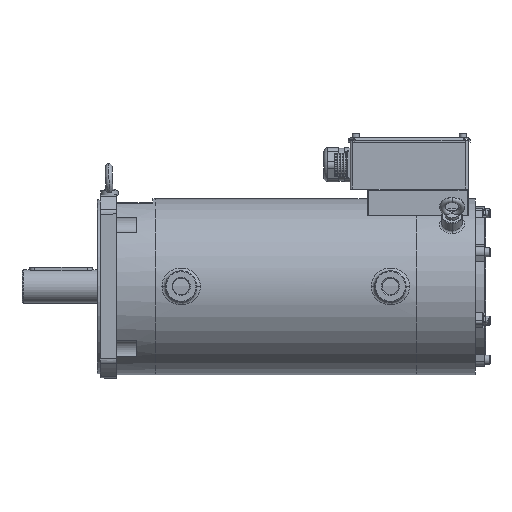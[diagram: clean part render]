
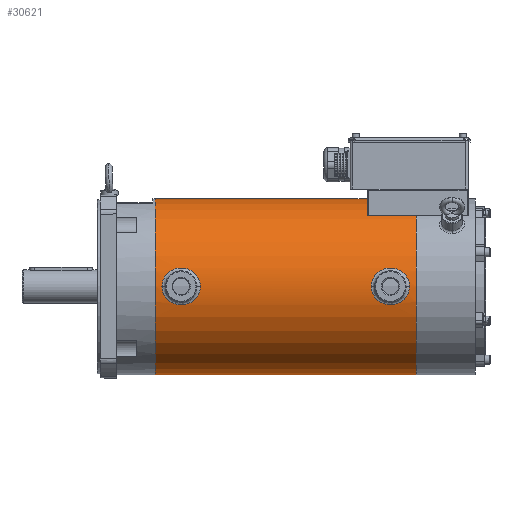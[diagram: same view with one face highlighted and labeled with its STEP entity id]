
A CAD part, top view. The second image highlights one B-rep face of the part: STEP entity #30621.
In plain terms, the highlighted cylindrical face has radius 126.5 mm (diameter 253 mm), a partial arc.
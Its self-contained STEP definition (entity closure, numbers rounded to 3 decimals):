
#24242=DIRECTION('',(-1.,0.,0.));
#24243=VECTOR('',#24242,374.5);
#24244=CARTESIAN_POINT('',(566.,126.5,
0.011));
#24245=LINE('',#24244,#24243);
#24327=CARTESIAN_POINT('',(566.,0.,0.));
#24328=DIRECTION('',(1.,0.,0.));
#24329=DIRECTION('',(0.,1.,0.));
#24330=AXIS2_PLACEMENT_3D('',#24327,#24328,#24329);
#24332=DIRECTION('',(-1.,0.,0.));
#24333=VECTOR('',#24332,374.5);
#24334=CARTESIAN_POINT('',(566.,-126.5,
-0.011));
#24335=LINE('',#24334,#24333);
#24336=CARTESIAN_POINT('',(191.5,0.,0.));
#24337=DIRECTION('',(-1.,0.,0.));
#24338=DIRECTION('',(0.,-1.,0.));
#24339=AXIS2_PLACEMENT_3D('',#24336,#24337,#24338);
#24341=CARTESIAN_POINT('',(501.5,-0.011,
126.5));
#24342=CARTESIAN_POINT('',(501.5,-1.837,126.5));
#24343=CARTESIAN_POINT('',(501.885,-5.422,
126.421));
#24344=CARTESIAN_POINT('',(503.612,-10.668,
126.084));
#24345=CARTESIAN_POINT('',(506.472,-15.524,
125.572));
#24346=CARTESIAN_POINT('',(510.368,-19.739,
124.97));
#24347=CARTESIAN_POINT('',(515.119,-23.08,
124.388));
#24348=CARTESIAN_POINT('',(520.49,-25.376,
123.933));
#24349=CARTESIAN_POINT('',(526.234,-26.531,
123.687));
#24350=CARTESIAN_POINT('',(532.106,-26.497,
123.694));
#24351=CARTESIAN_POINT('',(537.852,-25.269,
123.955));
#24352=CARTESIAN_POINT('',(543.193,-22.904,
124.421));
#24353=CARTESIAN_POINT('',(547.874,-19.516,
125.005));
#24354=CARTESIAN_POINT('',(551.634,-15.371,
125.59));
#24355=CARTESIAN_POINT('',(554.489,-10.467,
126.103));
#24356=CARTESIAN_POINT('',(556.173,-5.12,
126.433));
#24357=CARTESIAN_POINT('',(556.5,-1.712,
126.5));
#24358=CARTESIAN_POINT('',(556.5,-0.011,
126.5));
#24360=CARTESIAN_POINT('',(556.5,-0.011,
126.5));
#24361=CARTESIAN_POINT('',(556.5,1.815,126.5));
#24362=CARTESIAN_POINT('',(556.115,5.399,126.422));
#24363=CARTESIAN_POINT('',(554.389,10.646,126.086));
#24364=CARTESIAN_POINT('',(551.528,15.502,125.575));
#24365=CARTESIAN_POINT('',(547.632,19.717,124.974));
#24366=CARTESIAN_POINT('',(542.881,23.058,124.392));
#24367=CARTESIAN_POINT('',(537.51,25.355,123.937));
#24368=CARTESIAN_POINT('',(531.766,26.51,123.691));
#24369=CARTESIAN_POINT('',(525.894,26.476,123.699));
#24370=CARTESIAN_POINT('',(520.149,25.247,123.959));
#24371=CARTESIAN_POINT('',(514.807,22.882,124.425));
#24372=CARTESIAN_POINT('',(510.127,19.494,125.008));
#24373=CARTESIAN_POINT('',(506.366,15.349,125.593));
#24374=CARTESIAN_POINT('',(503.512,10.445,126.104));
#24375=CARTESIAN_POINT('',(501.827,5.099,126.434));
#24376=CARTESIAN_POINT('',(501.5,1.69,126.5));
#24377=CARTESIAN_POINT('',(501.5,-0.011,
126.5));
#24379=CARTESIAN_POINT('',(201.,-0.011,
126.5));
#24380=CARTESIAN_POINT('',(201.,-1.837,126.5));
#24381=CARTESIAN_POINT('',(201.385,-5.422,
126.421));
#24382=CARTESIAN_POINT('',(203.112,-10.668,
126.084));
#24383=CARTESIAN_POINT('',(205.972,-15.524,
125.572));
#24384=CARTESIAN_POINT('',(209.868,-19.739,
124.97));
#24385=CARTESIAN_POINT('',(214.619,-23.08,
124.388));
#24386=CARTESIAN_POINT('',(219.99,-25.376,
123.933));
#24387=CARTESIAN_POINT('',(225.734,-26.531,
123.687));
#24388=CARTESIAN_POINT('',(231.606,-26.497,
123.694));
#24389=CARTESIAN_POINT('',(237.352,-25.269,
123.955));
#24390=CARTESIAN_POINT('',(242.693,-22.904,
124.421));
#24391=CARTESIAN_POINT('',(247.374,-19.516,
125.005));
#24392=CARTESIAN_POINT('',(251.134,-15.371,
125.59));
#24393=CARTESIAN_POINT('',(253.989,-10.467,
126.103));
#24394=CARTESIAN_POINT('',(255.673,-5.12,
126.433));
#24395=CARTESIAN_POINT('',(256.,-1.712,
126.5));
#24396=CARTESIAN_POINT('',(256.,-0.011,
126.5));
#24398=CARTESIAN_POINT('',(256.,-0.011,
126.5));
#24399=CARTESIAN_POINT('',(256.,1.815,126.5));
#24400=CARTESIAN_POINT('',(255.615,5.399,126.422));
#24401=CARTESIAN_POINT('',(253.889,10.646,126.086));
#24402=CARTESIAN_POINT('',(251.028,15.502,125.575));
#24403=CARTESIAN_POINT('',(247.132,19.717,124.974));
#24404=CARTESIAN_POINT('',(242.381,23.058,124.392));
#24405=CARTESIAN_POINT('',(237.01,25.355,123.937));
#24406=CARTESIAN_POINT('',(231.266,26.51,123.691));
#24407=CARTESIAN_POINT('',(225.394,26.476,123.699));
#24408=CARTESIAN_POINT('',(219.649,25.247,123.959));
#24409=CARTESIAN_POINT('',(214.307,22.882,124.425));
#24410=CARTESIAN_POINT('',(209.627,19.494,125.008));
#24411=CARTESIAN_POINT('',(205.866,15.349,125.593));
#24412=CARTESIAN_POINT('',(203.012,10.445,126.104));
#24413=CARTESIAN_POINT('',(201.327,5.099,126.434));
#24414=CARTESIAN_POINT('',(201.,1.69,126.5));
#24415=CARTESIAN_POINT('',(201.,-0.011,
126.5));
#30268=CARTESIAN_POINT('',(566.,126.5,
0.011));
#30269=CARTESIAN_POINT('',(566.,-126.5,
-0.011));
#30270=VERTEX_POINT('',#30268);
#30271=VERTEX_POINT('',#30269);
#30272=CARTESIAN_POINT('',(191.5,126.5,
0.011));
#30273=CARTESIAN_POINT('',(191.5,-126.5,
-0.011));
#30274=VERTEX_POINT('',#30272);
#30275=VERTEX_POINT('',#30273);
#30523=VERTEX_POINT('',#24341);
#30524=VERTEX_POINT('',#24358);
#30527=VERTEX_POINT('',#24379);
#30528=VERTEX_POINT('',#24396);
#30596=CARTESIAN_POINT('',(566.,0.,0.));
#30597=DIRECTION('',(-1.,0.,0.));
#30598=DIRECTION('',(0.,1.,0.));
#30599=AXIS2_PLACEMENT_3D('',#30596,#30597,#30598);
#30600=CYLINDRICAL_SURFACE('',#30599,126.5);
#30602=ORIENTED_EDGE('',*,*,#30601,.T.);
#30603=ORIENTED_EDGE('',*,*,#30579,.T.);
#30605=ORIENTED_EDGE('',*,*,#30604,.T.);
#30606=ORIENTED_EDGE('',*,*,#30575,.F.);
#30607=EDGE_LOOP('',(#30602,#30603,#30605,#30606));
#30608=FACE_OUTER_BOUND('',#30607,.F.);
#30610=ORIENTED_EDGE('',*,*,#30609,.T.);
#30612=ORIENTED_EDGE('',*,*,#30611,.T.);
#30613=EDGE_LOOP('',(#30610,#30612));
#30614=FACE_BOUND('',#30613,.F.);
#30616=ORIENTED_EDGE('',*,*,#30615,.T.);
#30618=ORIENTED_EDGE('',*,*,#30617,.T.);
#30619=EDGE_LOOP('',(#30616,#30618));
#30620=FACE_BOUND('',#30619,.F.);
#30621=ADVANCED_FACE('',(#30608,#30614,#30620),#30600,.T.);
#24331=CIRCLE('',#24330,126.5);
#24340=CIRCLE('',#24339,126.5);
#24359=B_SPLINE_CURVE_WITH_KNOTS('',3,(#24341,#24342,#24343,#24344,#24345,
#24346,#24347,#24348,#24349,#24350,#24351,#24352,#24353,#24354,#24355,#24356,
#24357,#24358),.UNSPECIFIED.,.F.,.F.,(4,1,1,1,1,1,1,1,1,1,1,1,1,1,1,4),(0.,
0.067,0.133,0.2,0.267,0.333,
0.4,0.467,0.533,0.6,0.667,
0.733,0.8,0.867,0.933,1.),
.UNSPECIFIED.);
#24378=B_SPLINE_CURVE_WITH_KNOTS('',3,(#24360,#24361,#24362,#24363,#24364,
#24365,#24366,#24367,#24368,#24369,#24370,#24371,#24372,#24373,#24374,#24375,
#24376,#24377),.UNSPECIFIED.,.F.,.F.,(4,1,1,1,1,1,1,1,1,1,1,1,1,1,1,4),(0.,
0.067,0.133,0.2,0.267,0.333,
0.4,0.467,0.533,0.6,0.667,
0.733,0.8,0.867,0.933,1.),
.UNSPECIFIED.);
#24397=B_SPLINE_CURVE_WITH_KNOTS('',3,(#24379,#24380,#24381,#24382,#24383,
#24384,#24385,#24386,#24387,#24388,#24389,#24390,#24391,#24392,#24393,#24394,
#24395,#24396),.UNSPECIFIED.,.F.,.F.,(4,1,1,1,1,1,1,1,1,1,1,1,1,1,1,4),(0.,
0.067,0.133,0.2,0.267,0.333,
0.4,0.467,0.533,0.6,0.667,
0.733,0.8,0.867,0.933,1.),
.UNSPECIFIED.);
#24416=B_SPLINE_CURVE_WITH_KNOTS('',3,(#24398,#24399,#24400,#24401,#24402,
#24403,#24404,#24405,#24406,#24407,#24408,#24409,#24410,#24411,#24412,#24413,
#24414,#24415),.UNSPECIFIED.,.F.,.F.,(4,1,1,1,1,1,1,1,1,1,1,1,1,1,1,4),(0.,
0.067,0.133,0.2,0.267,0.333,
0.4,0.467,0.533,0.6,0.667,
0.733,0.8,0.867,0.933,1.),
.UNSPECIFIED.);
#30575=EDGE_CURVE('',#30270,#30274,#24245,.T.);
#30579=EDGE_CURVE('',#30271,#30275,#24335,.T.);
#30601=EDGE_CURVE('',#30270,#30271,#24331,.T.);
#30604=EDGE_CURVE('',#30275,#30274,#24340,.T.);
#30609=EDGE_CURVE('',#30523,#30524,#24359,.T.);
#30611=EDGE_CURVE('',#30524,#30523,#24378,.T.);
#30615=EDGE_CURVE('',#30527,#30528,#24397,.T.);
#30617=EDGE_CURVE('',#30528,#30527,#24416,.T.);
